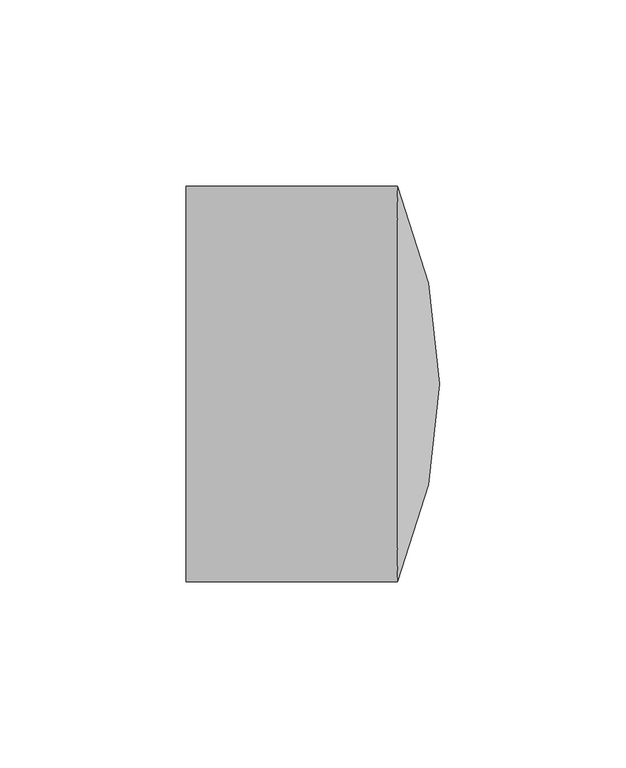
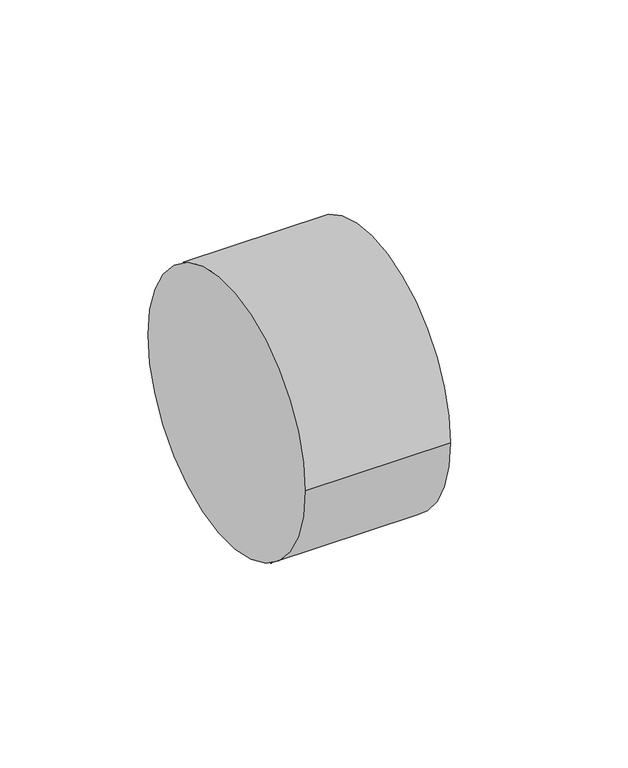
"""IFC4 building model written with IfcOpenShell, lengths in millimetres: pipe fitting geometry, 01051012 : Tampão F."""

from ifc_helpers import new_model, si_unit, point, frame, origin, place, context, project, spatial, circle_curve, ellipse_curve, trimmed, source, transform, mapped, element, save
from ifc_brep_helpers import plane_surface, cylinder_surface, revolved_surface, advanced_brep


def pipe_fitting_a340b74d(model_context):
    return source(origin(), model_context, "Body", "AdvancedBrep", [
        advanced_brep(
        [(56.6666667, 53.0, 0.0), (68.0, 0.0, 0.0), (56.6666667, -53.0, 0.0), (0.0, -53.0, 0.0), (0.0, 53.0, 0.0)],
        [
            (0, 1, circle_curve(frame((-67.8746815, -1.3432233, 0.0), z_axis=(0.0, 0.0, -1.0), x_axis=(1.0, 0.0, 0.0)), 135.8813207)),
            (1, 2, circle_curve(frame((-67.8746815, 1.3432233, 0.0), z_axis=(0.0, 0.0, -1.0), x_axis=(1.0, 0.0, 0.0)), 135.8813207)),
            (2, 0, circle_curve(frame((56.6666667, 0.0, 0.0), z_axis=(1.0, 0.0, 0.0), x_axis=(0.0, 1.0, 0.0)), 53.0)),
            (0, 2, circle_curve(frame((56.6666667, 0.0, 0.0), z_axis=(1.0, 0.0, 0.0), x_axis=(0.0, 1.0, 0.0)), 53.0)),
            (3, 4, circle_curve(frame((0.0, 0.0, 0.0), z_axis=(-1.0, 0.0, 0.0), x_axis=(0.0, 1.0, 0.0)), 53.0)),
            (4, 3, circle_curve(frame((0.0, 0.0, 0.0), z_axis=(-1.0, 0.0, 0.0), x_axis=(0.0, 1.0, 0.0)), 53.0)),
            (3, 2),
            (0, 4),
        ],
        [
            revolved_surface(trimmed(ellipse_curve(frame((-67.8746815, -1.3432233, 0.0), z_axis=(0.0, 0.0, 1.0), x_axis=(1.0, 0.0, 0.0)), 135.8813207, 135.8813207), [point((68.0, 0.0, 0.0))], [point((56.6666667, 53.0, 0.0))], True, "CARTESIAN"), (56.6666667, 0.0, 0.0), (-1.0, 0.0, 0.0)),
            plane_surface(frame((0.0, 0.0, 0.0), z_axis=(-1.0, 0.0, 0.0), x_axis=(0.0, 0.0, 1.0))),
            cylinder_surface(frame((0.0, 0.0, 0.0), z_axis=(-1.0, 0.0, 0.0), x_axis=(0.0, 1.0, 0.0)), 53.0),
        ],
        [
            (0, [[1, 2, 3]]),
            (0, [[-1, 4, -2]]),
            (1, [[5, 6]]),
            (2, [[-5, 7, -4, 8]]),
            (2, [[-6, -8, -3, -7]]),
        ],
    ),
    ])


if __name__ == "__main__":
    model = new_model("IFC4")
    model_context = context("Model", 3, world=origin())
    ifc_project = project(units=[si_unit("LENGTHUNIT", "METRE", prefix="MILLI")], contexts=[model_context])
    site = spatial("IfcSite", under=ifc_project)
    building = spatial("IfcBuilding", under=site)
    placement = place(None, origin())
    pipe_fitting_shape = pipe_fitting_a340b74d(model_context)
    element("IfcPipeFitting", 1, ObjectType="01051012 : Tampão F", at=placement, inside=building, context=model_context, shape_type="MappedRepresentation", body=[
        mapped(pipe_fitting_shape, transform((0.0, 0.0, 0.0), x_axis=(1.0, 0.0, 0.0), y_axis=(0.0, 1.0, 0.0), z_axis=(0.0, 0.0, 1.0))),
    ])
    save(model, "model.ifc")
